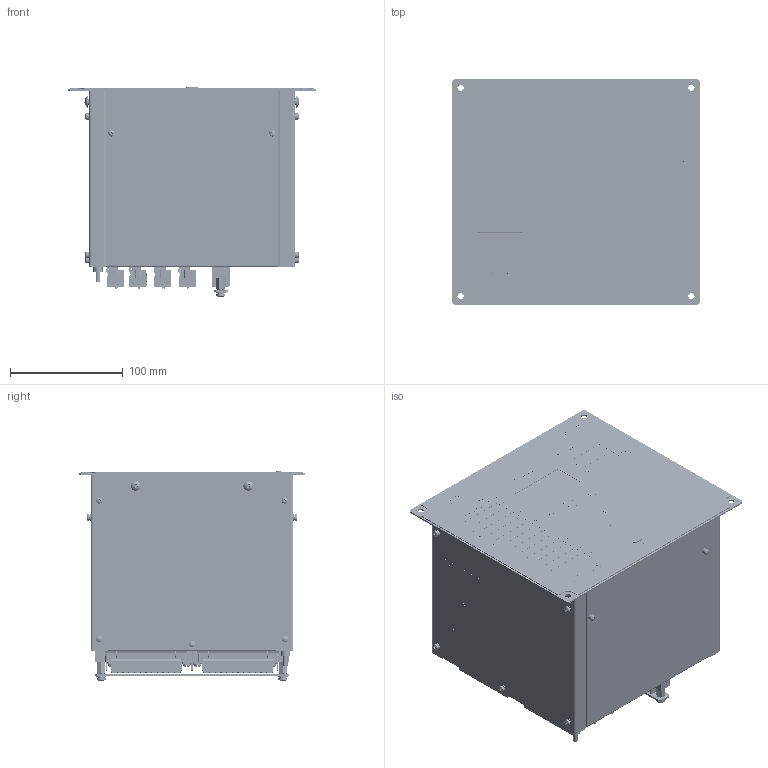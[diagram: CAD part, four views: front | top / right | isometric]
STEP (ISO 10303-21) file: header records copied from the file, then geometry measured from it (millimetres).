
FILE_DESCRIPTION(('STEP AP214'), '1');
FILE_NAME('ﾒﾐﾁﾍ.656122.001-22 - ﾊﾈﾒ-ﾐ', '', ('UNSPECIFIED'), ('UNSPECIFIED'), 'C3D Converter', 'C3D Toolkit', '');
FILE_SCHEMA(('AUTOMOTIVE_DESIGN { 1 0 10303 214 3 1 1}'));
Length unit declared in the file: millimetre
Products named in the file (74): ТРБН.656122.001-22; ТРБН.741128.001; ТРБН.745222.001; ТРБН.301732.001; ТРБН.745422.001; ТРБН.301261.001-20; ТРБН.745512.001-20; ТРБН.434416.011; ТРБН.754342.001; ТРБН.754342.002; ТРБН.434416.012; ТРБН.754342.002-01; ТРБН.434416.013; ТРБН.754342.002-02; ТРБН.434416.014; ТРБН.754342.001-01; ТРБН.754342.002-05; ТРБН.434416.015; ТРБН.754342.002-06; ТРБН.741134.002; ТРБН.754312.001; ТРБН.754342.006; 45H-08P; 45H-08P-01; 691317510004; 6913175100xx_PIN; 6913175100xx_INSERT; -01; 2EDGRHM-5.08-24P-14-00A(H); ТРБН.434416.016; ТРБН.754342.002-07; ТРБН.434416.017; ТРБН.754342.002-08; 691317510012; ТРБН.434416.018; ТРБН.754342.002-03; ТРБН.434416.019; ТРБН.754342.002-04
Assembly tree (150 placements, depth 4):
  ТРБН.656122.001-22
    (unnamed)
      ТРБН.741128.001
      ТРБН.745222.001  x2
    ТРБН.301732.001  x2
      ТРБН.745422.001
      (unnamed)
      (unnamed)
    ТРБН.301261.001-20
      ТРБН.745512.001-20
      (unnamed)  x2
      (unnamed)
    (unnamed)  x2
    (unnamed)
    (unnamed)
    (unnamed)  x10
    (unnamed)
    (unnamed)  x3
    (unnamed)  x12
    (unnamed)  x2
    (unnamed)  x2
    (unnamed)  x4
    (unnamed)  x2
    ТРБН.434416.011
      (unnamed)
      ТРБН.754342.001
      ТРБН.754342.002
    ТРБН.434416.012
      (unnamed)
      ТРБН.754342.001
      ТРБН.754342.002-01
    ТРБН.434416.013
      (unnamed)
      ТРБН.754342.001
      ТРБН.754342.002-02
    ТРБН.434416.014
      (unnamed)
      ТРБН.754342.001-01
      ТРБН.754342.002-05
    ТРБН.434416.015
      (unnamed)
      ТРБН.754342.001-01
      ТРБН.754342.002-06
    ТРБН.741134.002
    ТРБН.754312.001
    (unnamed)
    (unnamed)
    (unnamed)
    (unnamed)
    ТРБН.754342.006
    (unnamed)
    (unnamed)
    (unnamed)  x10
    (unnamed)  x2
    (unnamed)
    (unnamed)
      45H-08P
      45H-08P-01
    (unnamed)  x2
    (unnamed)  x3
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Bounding box: 220 x 200 x 187.02 mm (x, y, z)
Volume: 485402.2 mm3; surface area: 679858 mm2
Topology: 272 solids, 290 shells, 40223 faces, 113266 edges, 74745 vertices
Faces by surface type: plane 24238, cylinder 12499, extrusion 2508, torus 532, bspline 224, cone 201, sphere 21
Full cylindrical faces by diameter (mm): 0.405 x8, 0.482 x8, 0.804 x1, 1.371 x1, 1.6 x8, 1.771 x1, 1.8 x18, 2.459 x6, 2.5 x18, 2.6 x20, 2.75 x36, 3 x14, 3.2 x22, 3.242 x3, 3.3 x84, 3.301 x16, 3.4 x8, 3.5 x70, 3.85 x18, 4 x92, 4.2 x6, 4.22 x6, 4.3 x2, 4.5 x9, 5 x6, 5.6 x20, 5.7 x4, 6 x14, 6.35 x6, 6.8 x1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
Entity records: 1222552 total; most frequent: CARTESIAN_POINT 235034, ORIENTED_EDGE 164492, DIRECTION 148231, EDGE_CURVE 82246, VECTOR 60677, LINE 58169, VERTEX_POINT 54697, AXIS2_PLACEMENT_3D 43777
